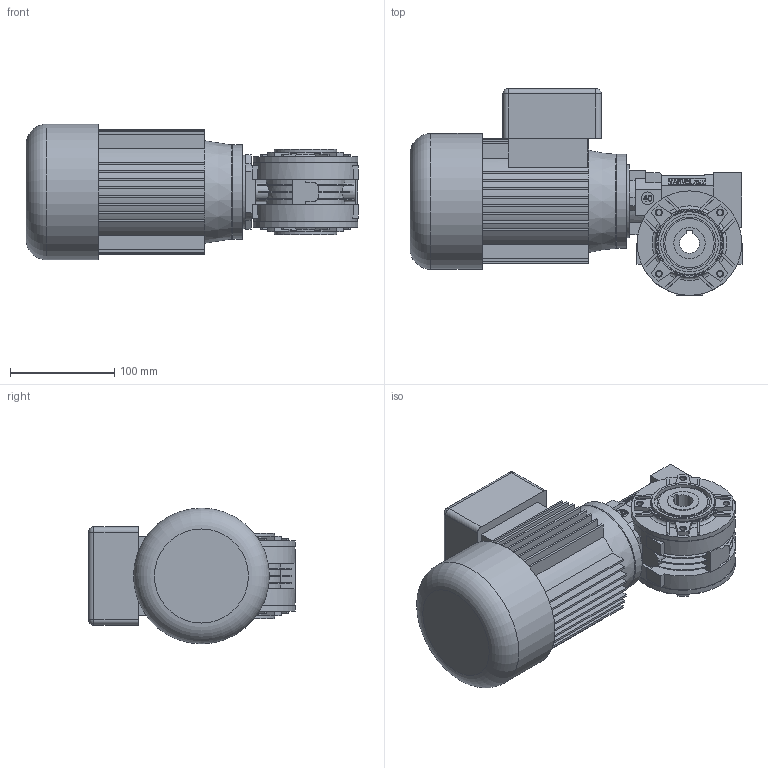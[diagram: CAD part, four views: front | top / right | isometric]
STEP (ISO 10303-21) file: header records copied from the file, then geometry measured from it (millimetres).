
FILE_DESCRIPTION( ( 'Unknown' ), '1' );
FILE_NAME( 'E:/services/configuratordownloads/customers/VARVEL/RS/download/2C52399E329505D13C07EE1668E10D9/STEP/2C52399E329505D13C07EE1668E10D9.3d.stp', 'Unknown', ( 'Unknown' ), ( 'Unknown' ), 'PSStep 10.1', 'Unknown', ' ' );
FILE_SCHEMA( ( 'AUTOMOTIVE_DESIGN { 1 0 10303 214 1 1 1 1 }' ) );
Length unit declared in the file: millimetre
Products named in the file (1): 571101
Bounding box: 317.75 x 198 x 130 mm (x, y, z)
Volume: 3052276.8 mm3; surface area: 293213.8 mm2
Topology: 1 solids, 3 shells, 805 faces, 2091 edges, 1371 vertices
Faces by surface type: plane 591, cylinder 140, torus 45, cone 25, sphere 4
Full cylindrical faces by diameter (mm): 4.2 x8, 6 x8, 6.5 x8, 11 x1, 12 x1, 15 x1, 16 x2, 30 x3, 42.1 x1, 42.2 x1, 45 x1, 47.1 x3, 50 x2, 52 x1, 55 x4, 55.4 x2, 59 x1, 60 x3, 68 x1, 70 x3, 90 x1, 100 x2, 130 x1
Entity records: 30923 total; most frequent: CARTESIAN_POINT 5203, ORIENTED_EDGE 3934, DIRECTION 3875, EDGE_CURVE 1967, LINE 1375, VECTOR 1375, VERTEX_POINT 1332, AXIS2_PLACEMENT_3D 1250
